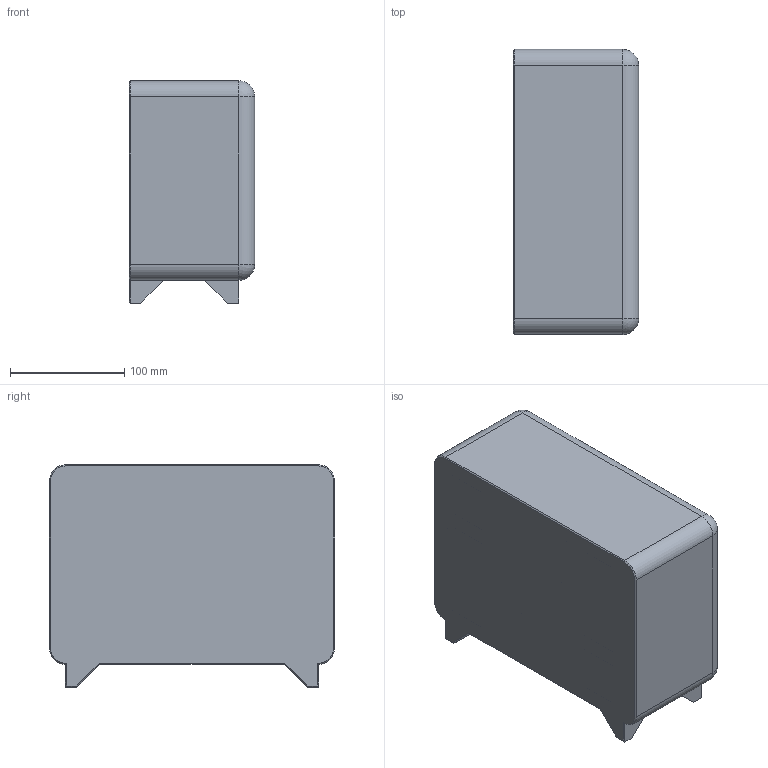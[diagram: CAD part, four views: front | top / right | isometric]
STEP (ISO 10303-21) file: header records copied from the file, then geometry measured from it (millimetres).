
FILE_DESCRIPTION(/* description */ (''),/* implementation_level */ '2;1');
FILE_NAME(/* name */ 'CupBoard v3-cb1.step',/* time_stamp */ '2024-06-02T15:56:04+02:00',/* author */ (''),/* organization */ (''),/* preprocessor_version */ 'ST-DEVELOPER v20',/* originating_system */ 'Autodesk Translation Framework v13.14.0.145',/* authorisation */ '');
FILE_SCHEMA (('AUTOMOTIVE_DESIGN { 1 0 10303 214 3 1 1 }'));
Length unit declared in the file: millimetre
Products named in the file (1): CupBoard
Bounding box: 110 x 250 x 195 mm (x, y, z)
Volume: 1985728.8 mm3; surface area: 333519.9 mm2
Topology: 1 solids, 1 shells, 114 faces, 282 edges, 174 vertices
Faces by surface type: plane 80, cylinder 26, cone 4, sphere 4
Entity records: 3425 total; most frequent: CARTESIAN_POINT 681, ORIENTED_EDGE 564, DIRECTION 558, EDGE_CURVE 282, LINE 216, VECTOR 216, VERTEX_POINT 174, AXIS2_PLACEMENT_3D 171
